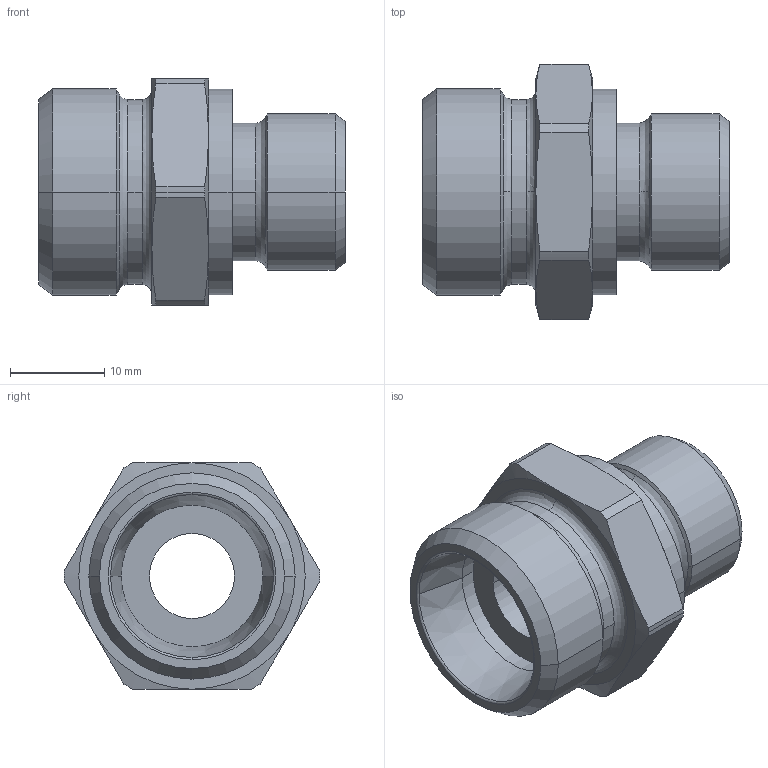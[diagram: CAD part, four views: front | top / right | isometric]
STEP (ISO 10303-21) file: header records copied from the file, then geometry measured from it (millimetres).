
FILE_DESCRIPTION((''),'2;1');
FILE_NAME('100533.stp','2007-10-30T14:35:35',(''),(''),'AutoCAD STEP 2000i','AutoCAD 2000i',', , ');
FILE_SCHEMA(('CONFIG_CONTROL_DESIGN'));
Length unit declared in the file: millimetre
Products named in the file (2): 100533.0; CHIAVE SMUSSATA#0
Assembly tree (1 placements, depth 2):
  100533.0
    CHIAVE SMUSSATA#0
Bounding box: 32.5 x 27.1 x 24 mm (x, y, z)
Volume: 7244.2 mm3; surface area: 4085 mm2
Topology: 1 solids, 1 shells, 75 faces, 185 edges, 117 vertices
Faces by surface type: cylinder 24, cone 24, plane 13, bspline 12, torus 2
Entity records: 2835 total; most frequent: CARTESIAN_POINT 955, DIRECTION 410, ORIENTED_EDGE 370, EDGE_CURVE 185, AXIS2_PLACEMENT_3D 184, CIRCLE 119, VERTEX_POINT 117, EDGE_LOOP 82
